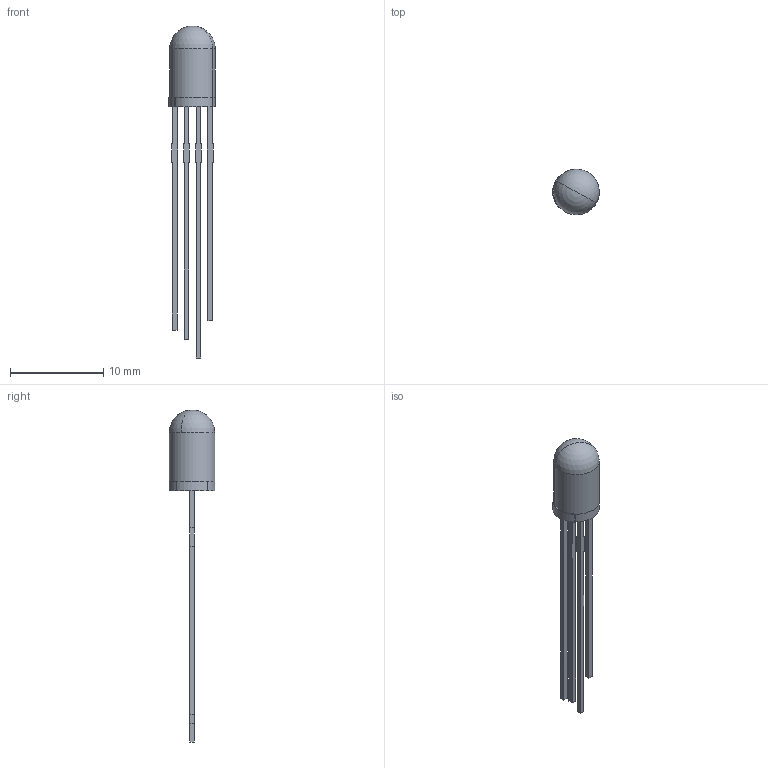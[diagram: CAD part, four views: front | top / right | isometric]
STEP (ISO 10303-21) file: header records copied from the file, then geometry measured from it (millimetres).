
FILE_DESCRIPTION(('CATIA V5 STEP Exchange'),'2;1');
FILE_NAME('C:\Users\Fernan\Dropbox\Arduino\Termometro\LED_RGB.stp','2016-12-04T13:18:24+00:00',('none'),('none'),'CATIA Version 5 Release 21 SP 3 (IN-10)','CATIA V5 STEP AP203','none');
FILE_SCHEMA(('CONFIG_CONTROL_DESIGN'));
Length unit declared in the file: millimetre
Products named in the file (1): LED_RGB
Bounding box: 5 x 4.9 x 35.65 mm (x, y, z)
Volume: 81.2 mm3; surface area: 502.4 mm2
Topology: 6 solids, 7 shells, 73 faces, 179 edges, 116 vertices
Faces by surface type: plane 62, cylinder 7, sphere 4
Entity records: 1923 total; most frequent: ORIENTED_EDGE 350, CARTESIAN_POINT 329, DIRECTION 249, EDGE_CURVE 175, VECTOR 157, LINE 157, VERTEX_POINT 116, ADVANCED_FACE 73
